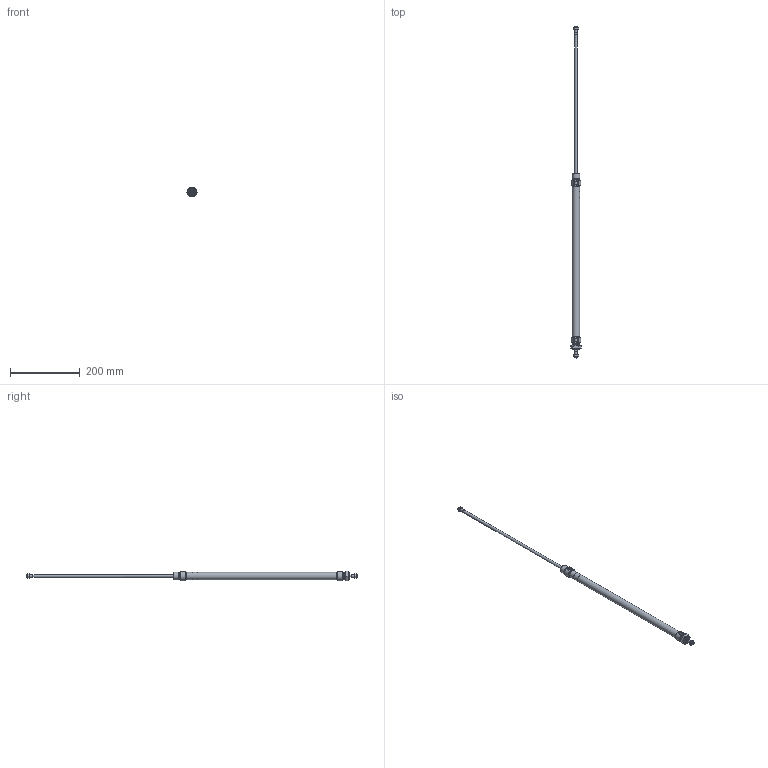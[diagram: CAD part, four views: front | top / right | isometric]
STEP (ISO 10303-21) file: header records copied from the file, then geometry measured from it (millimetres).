
FILE_DESCRIPTION(/* description */ ('Unknown'),/* implementation_level */ '2;1');
FILE_NAME(/* name */ 'RBM 20_400',/* time_stamp */ '2024-08-29T11:29:04+02:00',/* author */ ('Unknown'),/* organization */ ('Unknown'),/* preprocessor_version */ 'ST-DEVELOPER v16.7',/* originating_system */ 'Solid Edge',/* authorisation */ 'Unknown');
FILE_SCHEMA (('AUTOMOTIVE_DESIGN {1 0 10303 214 3 1 1}'));
Length unit declared in the file: millimetre
Products named in the file (6): RBM 20_400; Profilrohr; Kolbenstange; Kit; Mutter_1; Mutter_2
Assembly tree (8 placements, depth 2):
  RBM 20_400
    Profilrohr
    Kolbenstange  x2
    Kit  x2
    Mutter_1  x2
    Mutter_2
Bounding box: 31.18 x 955 x 27 mm (x, y, z)
Volume: 109272.2 mm3; surface area: 95544.8 mm2
Topology: 8 solids, 8 shells, 189 faces, 375 edges, 230 vertices
Faces by surface type: plane 74, cone 62, cylinder 39, torus 14
Full cylindrical faces by diameter (mm): 6.647 x2, 8 x4, 8.5 x2, 8.56 x2, 8.566 x2, 9.1 x2, 12 x2, 12.1 x2, 14.1 x2, 14.2 x2, 19.7 x2, 20 x3, 20.376 x1, 21.27 x1, 22 x4, 22.2 x2
Entity records: 3209 total; most frequent: CARTESIAN_POINT 491, DIRECTION 424, ORIENTED_EDGE 306, AXIS2_PLACEMENT_3D 198, EDGE_LOOP 170, FACE_BOUND 170, EDGE_CURVE 153, VERTEX_POINT 119
